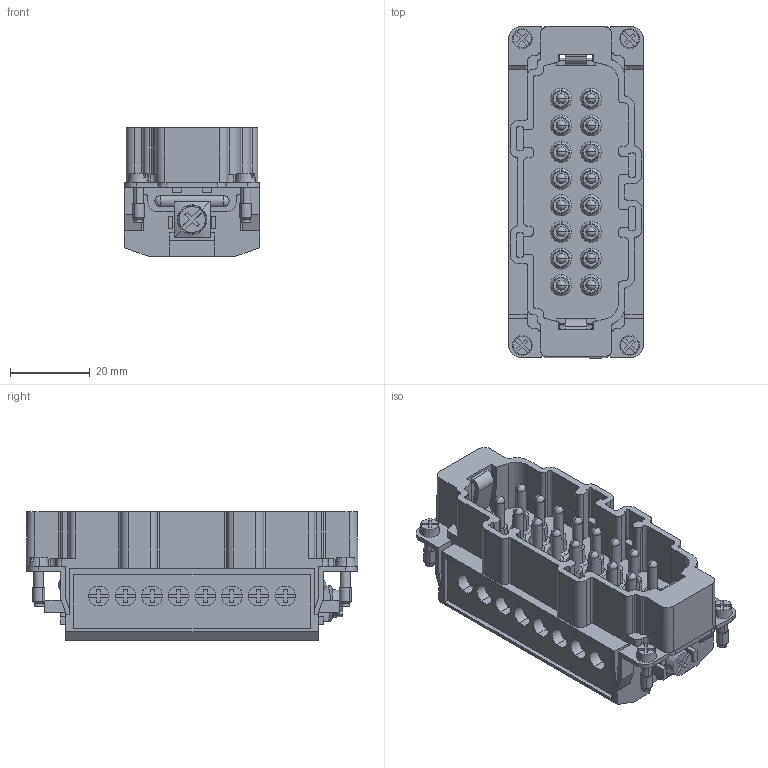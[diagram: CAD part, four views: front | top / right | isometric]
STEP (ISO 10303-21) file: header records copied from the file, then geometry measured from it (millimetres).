
FILE_DESCRIPTION(('SolidDesigner STEP Export'),'2;1');
FILE_NAME('1584871_HC_B_16_I_UT_M_32-select.stp','2016-12-01T11:05:10',(''),(''),'Creo Elements/Direct Modeling STEP processor for AP214 (Solid Model)','Creo Elements/Direct Modeling 18.1G 27-Feb-2015 (C) Parametric Technology GmbH','');
FILE_SCHEMA(('AUTOMOTIVE_DESIGN { 1 0 10303 214 1 1 1 1 }'));
Length unit declared in the file: millimetre
Products named in the file (2): 1584871_HC_B_16_I_UT_M_32-select
Assembly tree (1 placements, depth 2):
  1584871_HC_B_16_I_UT_M_32-select
    1584871_HC_B_16_I_UT_M_32-select
Bounding box: 34 x 83.5 x 32.35 mm (x, y, z)
Volume: 41285.9 mm3; surface area: 26017.6 mm2
Topology: 1 solids, 1 shells, 1445 faces, 4013 edges, 2638 vertices
Faces by surface type: plane 997, cylinder 296, cone 116, sphere 36
Entity records: 56203 total; most frequent: CARTESIAN_POINT 8258, ORIENTED_EDGE 7962, DIRECTION 7130, EDGE_CURVE 3981, VECTOR 2886, LINE 2886, VERTEX_POINT 2638, AXIS2_PLACEMENT_3D 2122
